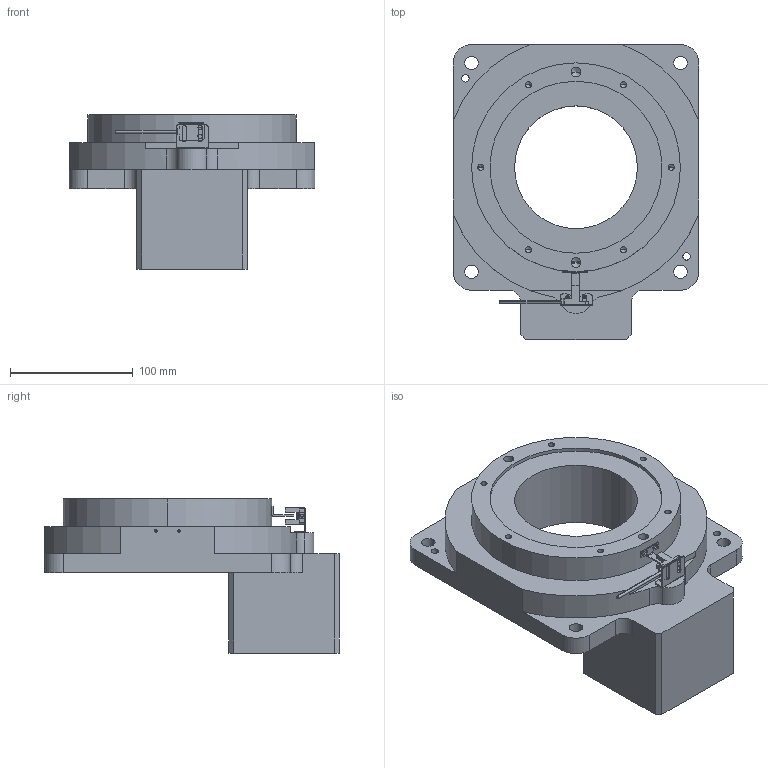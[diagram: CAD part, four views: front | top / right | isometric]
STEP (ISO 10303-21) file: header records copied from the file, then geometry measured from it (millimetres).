
FILE_DESCRIPTION (( 'STEP AP203' ), '1' );
FILE_NAME ('RTN200-10K-14-69.6-73-M6(86²½½ø).STEP', '2024-05-21T10:17:53', ( '' ), ( '' ), 'SwSTEP 2.0', 'SolidWorks 2023', '' );
FILE_SCHEMA (( 'CONFIG_CONTROL_DESIGN' ));
Length unit declared in the file: millimetre
Products named in the file (1): RTN200-10K-14-69.6-73-M6(86步进)
Bounding box: 200 x 240 x 125.5 mm (x, y, z)
Volume: 1942870.3 mm3; surface area: 166209.3 mm2
Topology: 4 solids, 6 shells, 266 faces, 703 edges, 435 vertices
Faces by surface type: cylinder 115, plane 111, cone 40
Entity records: 8079 total; most frequent: DIRECTION 1430, CARTESIAN_POINT 1365, ORIENTED_EDGE 1326, EDGE_CURVE 663, AXIS2_PLACEMENT_3D 500, VERTEX_POINT 435, LINE 430, VECTOR 430
